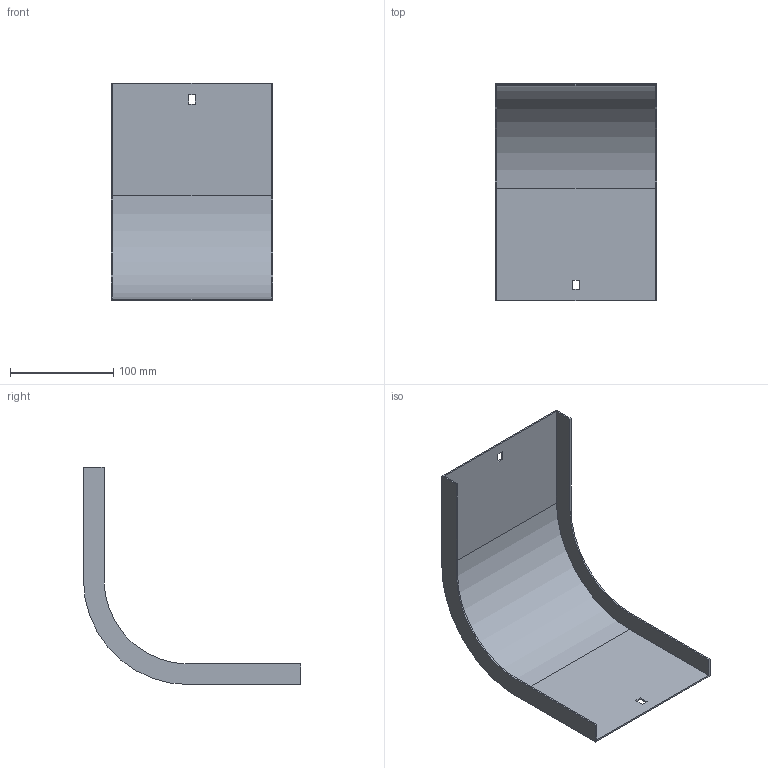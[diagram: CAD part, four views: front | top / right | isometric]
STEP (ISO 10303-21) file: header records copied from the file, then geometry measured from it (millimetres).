
FILE_DESCRIPTION (( 'STEP AP214' ), '1' );
FILE_NAME ('33G1C150.step', '2025-02-21T12:44:47', ( '' ), ( '' ), 'SwSTEP 2.0', 'SolidWorks 2023', '' );
FILE_SCHEMA (( 'AUTOMOTIVE_DESIGN' ));
Length unit declared in the file: millimetre
Products named in the file (1): 33G1C150
Bounding box: 157 x 210.5 x 210.5 mm (x, y, z)
Volume: 108443.7 mm3; surface area: 146308.2 mm2
Topology: 1 solids, 1 shells, 26 faces, 72 edges, 48 vertices
Faces by surface type: plane 22, cylinder 4
Entity records: 855 total; most frequent: CARTESIAN_POINT 147, ORIENTED_EDGE 144, DIRECTION 134, EDGE_CURVE 72, LINE 64, VECTOR 64, VERTEX_POINT 48, AXIS2_PLACEMENT_3D 35
